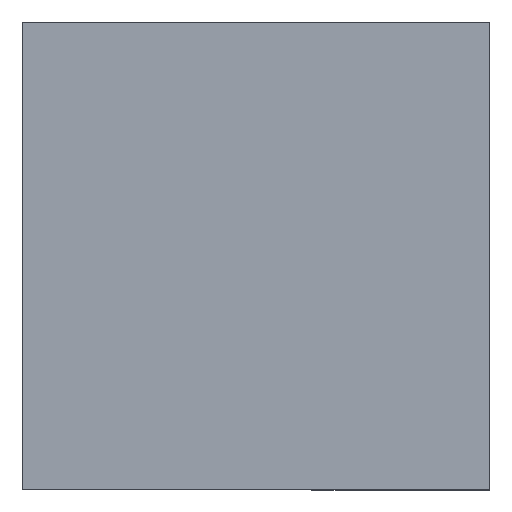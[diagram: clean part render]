
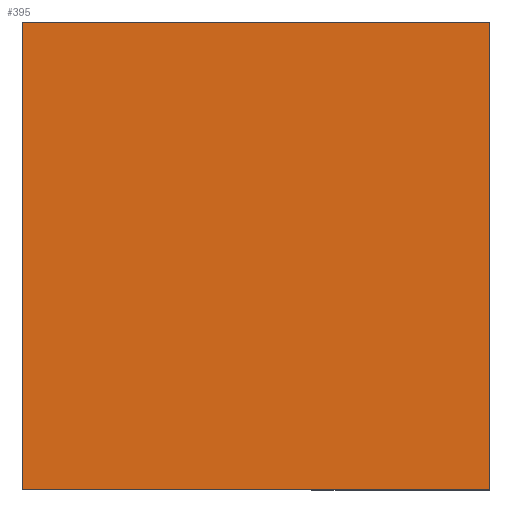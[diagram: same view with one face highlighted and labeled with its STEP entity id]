
A CAD part, top view. The second image highlights one B-rep face of the part: STEP entity #395.
In plain terms, the highlighted planar face has unit normal (0, 0, 1).
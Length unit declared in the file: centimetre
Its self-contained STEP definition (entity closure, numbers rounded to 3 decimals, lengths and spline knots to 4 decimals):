
#13 = PLANE ( 'NONE',  #361 ) ;
#31 = ORIENTED_EDGE ( 'NONE', *, *, #188, .T. ) ;
#32 = VERTEX_POINT ( 'NONE', #272 ) ;
#66 = VERTEX_POINT ( 'NONE', #299 ) ;
#85 = CARTESIAN_POINT ( 'NONE',  ( 0., 1000., 1000. ) ) ;
#86 = VECTOR ( 'NONE', #118, 100. ) ;
#87 = LINE ( 'NONE', #330, #86 ) ;
#88 = EDGE_CURVE ( 'NONE', #32, #66, #276, .T. ) ;
#100 = EDGE_CURVE ( 'NONE', #183, #207, #389, .T. ) ;
#106 = CARTESIAN_POINT ( 'NONE',  ( 0., 1000., 1000. ) ) ;
#109 = EDGE_CURVE ( 'NONE', #207, #32, #365, .T. ) ;
#112 = CARTESIAN_POINT ( 'NONE',  ( 0., 1000., 1000. ) ) ;
#114 = DIRECTION ( 'NONE',  ( 0., 0., 1. ) ) ;
#116 = CARTESIAN_POINT ( 'NONE',  ( 0., 0., 1000. ) ) ;
#118 = DIRECTION ( 'NONE',  ( 0., 1., 0. ) ) ;
#133 = ORIENTED_EDGE ( 'NONE', *, *, #88, .T. ) ;
#158 = VECTOR ( 'NONE', #179, 100. ) ;
#176 = DIRECTION ( 'NONE',  ( 1., 0., 0. ) ) ;
#179 = DIRECTION ( 'NONE',  ( 0., -1., 0. ) ) ;
#183 = VERTEX_POINT ( 'NONE', #211 ) ;
#185 = CARTESIAN_POINT ( 'NONE',  ( 0., 0., 1000. ) ) ;
#188 = EDGE_CURVE ( 'NONE', #66, #183, #87, .T. ) ;
#207 = VERTEX_POINT ( 'NONE', #106 ) ;
#211 = CARTESIAN_POINT ( 'NONE',  ( 1000., 1000., 1000. ) ) ;
#251 = VECTOR ( 'NONE', #278, 100. ) ;
#272 = CARTESIAN_POINT ( 'NONE',  ( 0., 0., 1000. ) ) ;
#276 = LINE ( 'NONE', #116, #342 ) ;
#278 = DIRECTION ( 'NONE',  ( -1., 0., 0. ) ) ;
#292 = EDGE_LOOP ( 'NONE', ( #318, #133, #31, #356 ) ) ;
#299 = CARTESIAN_POINT ( 'NONE',  ( 1000., 0., 1000. ) ) ;
#318 = ORIENTED_EDGE ( 'NONE', *, *, #109, .T. ) ;
#330 = CARTESIAN_POINT ( 'NONE',  ( 1000., 1000., 1000. ) ) ;
#332 = DIRECTION ( 'NONE',  ( 1., 0., 0. ) ) ;
#342 = VECTOR ( 'NONE', #176, 100. ) ;
#356 = ORIENTED_EDGE ( 'NONE', *, *, #100, .T. ) ;
#361 = AXIS2_PLACEMENT_3D ( 'NONE', #185, #114, #332 ) ;
#365 = LINE ( 'NONE', #85, #158 ) ;
#389 = LINE ( 'NONE', #112, #251 ) ;
#393 = FACE_OUTER_BOUND ( 'NONE', #292, .T. ) ;
#395 = ADVANCED_FACE ( 'NONE', ( #393 ), #13, .T. ) ;
